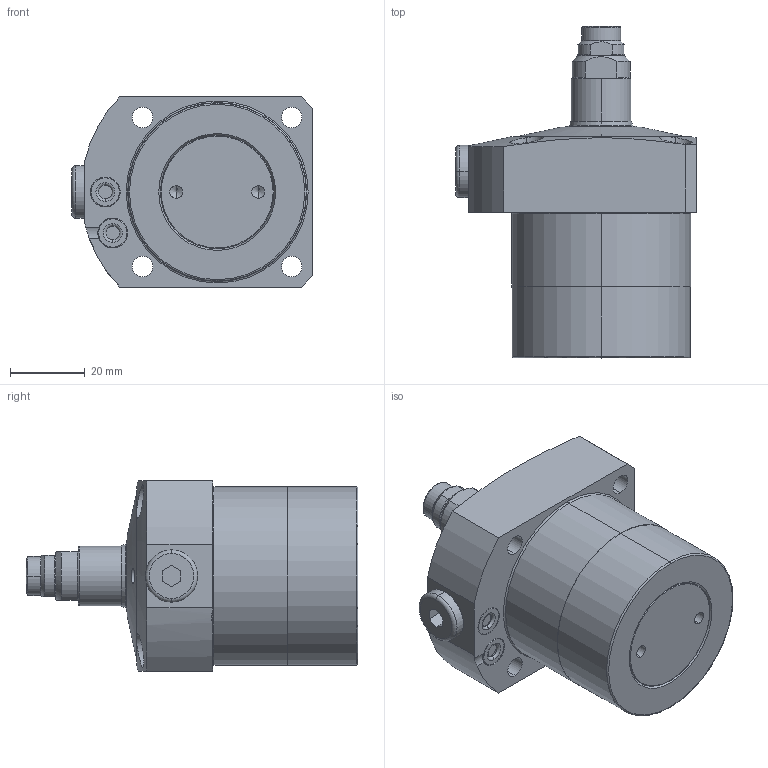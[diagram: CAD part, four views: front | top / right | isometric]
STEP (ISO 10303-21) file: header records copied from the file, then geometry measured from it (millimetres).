
FILE_DESCRIPTION(/* description */ (''),/* implementation_level */ '2;1');
FILE_NAME(/* name */ 'KFSS48-M.stp',/* time_stamp */ '2026-02-06T10:25:22+08:00',/* author */ (''),/* organization */ (''),/* preprocessor_version */ 'ST-DEVELOPER v16.7',/* originating_system */ 'SIEMENS PLM Software NX 12.0',/* authorisation */ '');
FILE_SCHEMA (('AUTOMOTIVE_DESIGN { 1 0 10303 214 3 1 1 1 }'));
Length unit declared in the file: millimetre
Products named in the file (10): XLC-M10SP_contactbolt; XLC-M10SP_pin; XLC-M10SP_pad; XLC-M10_Oring; KFSS48-M-01; KFSS48-M-02; KFSS48-M-04; KFSS48-M-05-P5; KFSS48-M-03; LC0483-CxM-E_step
Assembly tree (10 placements, depth 3):
  LC0483-CxM-E_step
    KFSS48-M-05-P5  x2
    KFSS48-M-04
    KFSS48-M-03
      XLC-M10_Oring
      XLC-M10SP_pad
      XLC-M10SP_pin
      XLC-M10SP_contactbolt
    KFSS48-M-02
    KFSS48-M-01
Bounding box: 64.5 x 89 x 51 mm (x, y, z)
Volume: 130906.8 mm3; surface area: 22441.2 mm2
Topology: 9 solids, 9 shells, 278 faces, 624 edges, 378 vertices
Faces by surface type: cylinder 94, torus 62, plane 61, cone 55, sphere 6
Entity records: 8321 total; most frequent: CARTESIAN_POINT 1890, DIRECTION 1427, ORIENTED_EDGE 1184, AXIS2_PLACEMENT_3D 617, EDGE_CURVE 592, VERTEX_POINT 364, CIRCLE 340, EDGE_LOOP 308
